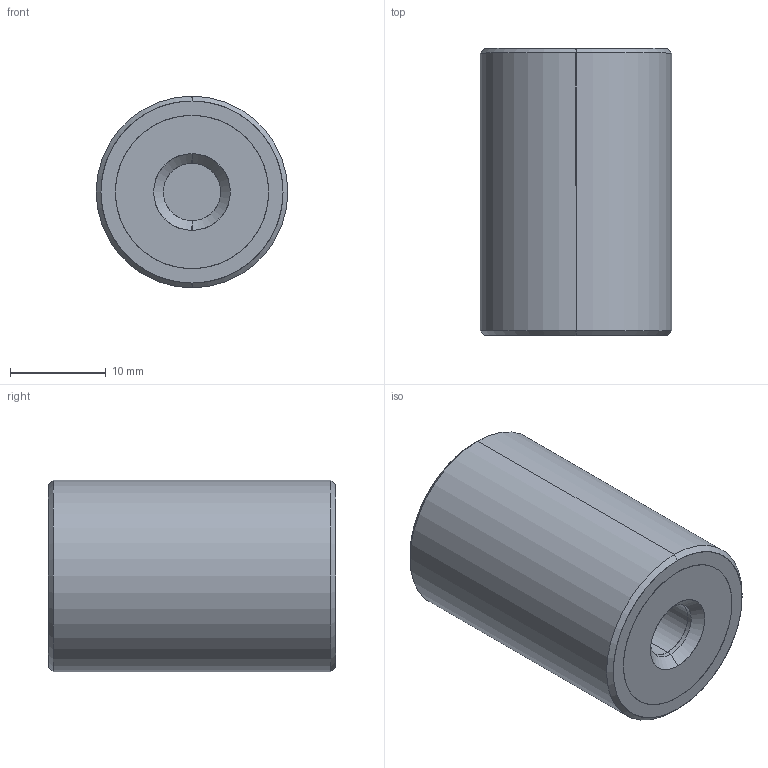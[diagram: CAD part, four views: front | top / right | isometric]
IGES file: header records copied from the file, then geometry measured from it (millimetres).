
Start section: SolidWorks IGES file using analytic representation for surfaces
Global section: file name: E:\WIXROYD 20180701\61080_v2\61080_v2_20180409_IGES\61080.W0203.igs; native system: SolidWorks 2017; preprocessor: SolidWorks 2017; author: liam_; date: 180716.214252; units: millimetre
Bounding box: 20 x 30 x 20 mm (x, y, z)
Surface area: 3675.3 mm2 (no closed solid volume)
Topology: 0 solids, 0 shells, 36 faces, 680 edges, 680 vertices
Faces by surface type: revolution 26, bspline 10
